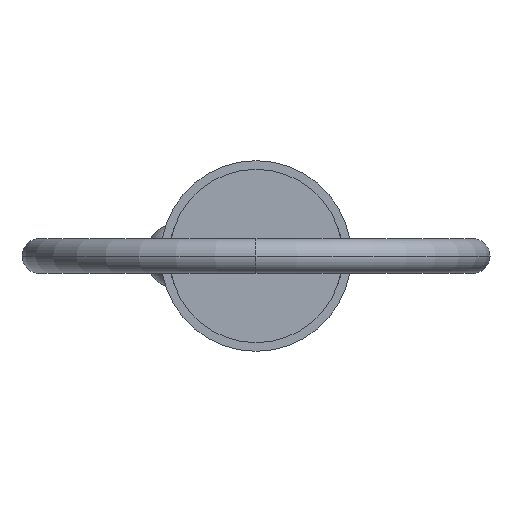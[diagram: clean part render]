
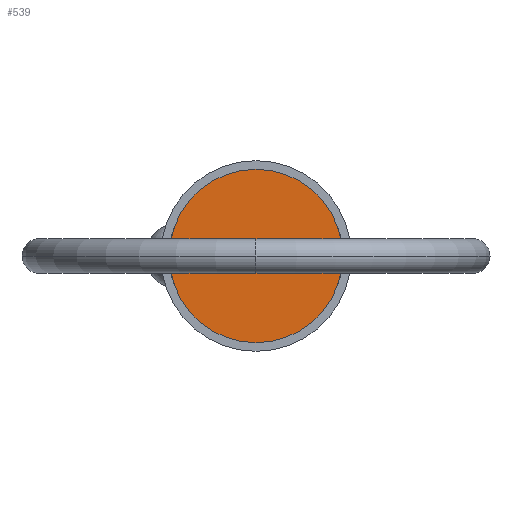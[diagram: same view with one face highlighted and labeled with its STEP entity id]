
A CAD part, left-side view. The second image highlights one B-rep face of the part: STEP entity #539.
In plain terms, the highlighted planar face has unit normal (-1, 0, 0).
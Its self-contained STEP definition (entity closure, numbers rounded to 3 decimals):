
#27 = CIRCLE ( 'NONE', #736, 12.7 ) ;
#34 = CARTESIAN_POINT ( 'NONE',  ( 0., 0., 0. ) ) ;
#60 = CARTESIAN_POINT ( 'NONE',  ( 0., 0., 12.7 ) ) ;
#100 = AXIS2_PLACEMENT_3D ( 'NONE', #34, #381, #707 ) ;
#141 = VERTEX_POINT ( 'NONE', #1033 ) ;
#146 = DIRECTION ( 'NONE',  ( 0., 0., -1. ) ) ;
#158 = VERTEX_POINT ( 'NONE', #60 ) ;
#227 = ORIENTED_EDGE ( 'NONE', *, *, #966, .F. ) ;
#231 = AXIS2_PLACEMENT_3D ( 'NONE', #501, #663, #814 ) ;
#381 = DIRECTION ( 'NONE',  ( 1., 0., 0. ) ) ;
#501 = CARTESIAN_POINT ( 'NONE',  ( 0., 0., 0. ) ) ;
#539 = ADVANCED_FACE ( 'NONE', ( #901 ), #897, .T. ) ;
#663 = DIRECTION ( 'NONE',  ( -1., 0., 0. ) ) ;
#707 = DIRECTION ( 'NONE',  ( 0., 0., -1. ) ) ;
#736 = AXIS2_PLACEMENT_3D ( 'NONE', #1057, #983, #146 ) ;
#753 = CIRCLE ( 'NONE', #100, 12.7 ) ;
#814 = DIRECTION ( 'NONE',  ( 0., 0., 1. ) ) ;
#897 = PLANE ( 'NONE',  #231 ) ;
#901 = FACE_OUTER_BOUND ( 'NONE', #1056, .T. ) ;
#966 = EDGE_CURVE ( 'NONE', #158, #141, #753, .T. ) ;
#983 = DIRECTION ( 'NONE',  ( 1., 0., 0. ) ) ;
#1024 = EDGE_CURVE ( 'NONE', #141, #158, #27, .T. ) ;
#1033 = CARTESIAN_POINT ( 'NONE',  ( 0., 0., -12.7 ) ) ;
#1056 = EDGE_LOOP ( 'NONE', ( #1074, #227 ) ) ;
#1057 = CARTESIAN_POINT ( 'NONE',  ( 0., 0., 0. ) ) ;
#1074 = ORIENTED_EDGE ( 'NONE', *, *, #1024, .F. ) ;
